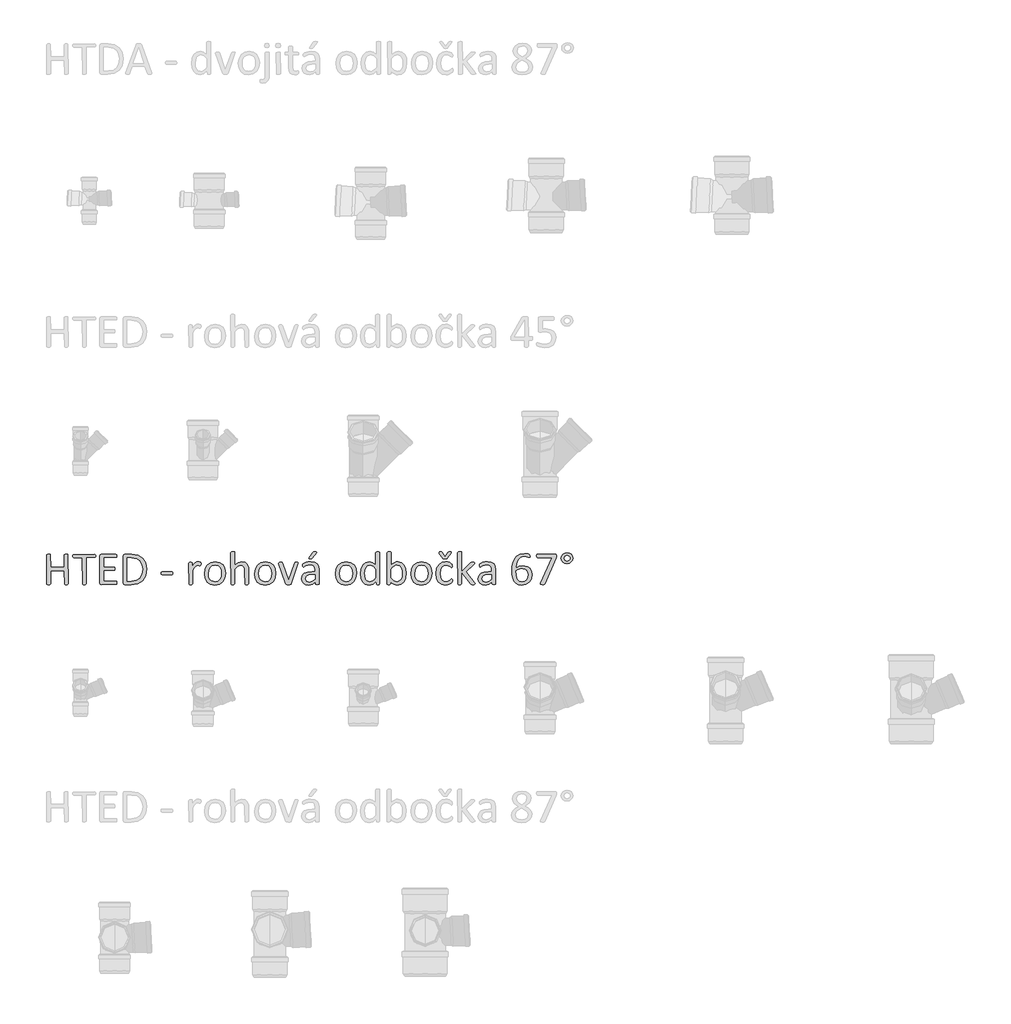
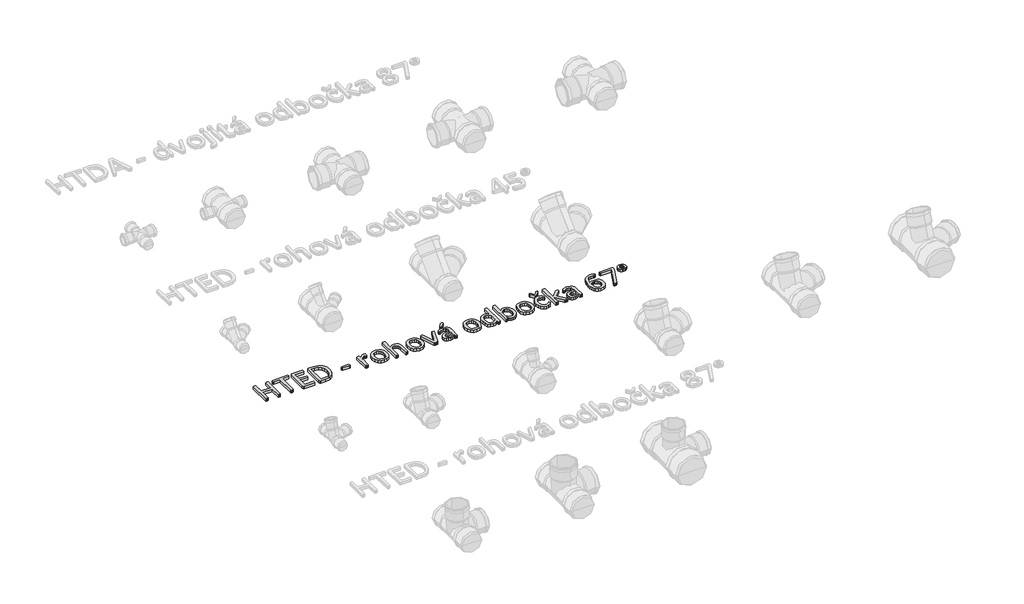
# One storey, part 15 of 26: 1 proxy.
"""IFC4 building model written with IfcOpenShell, lengths in millimetres."""

from ifc_helpers import new_model, si_unit, origin, origin_with_axes, place, context, project, spatial, polyline, outline, extrude, element, save

model = new_model("IFC4")

# Units and contexts
model_context = context("Model", 3, world=origin())
ifc_project = project(units=[si_unit("LENGTHUNIT", "METRE", prefix="MILLI")], contexts=[model_context])

# Site, building, storey
site = spatial("IfcSite", under=ifc_project)
building = spatial("IfcBuilding", under=site)
storey = spatial("IfcBuildingStorey", under=building, Name="Podlaží 1", Elevation=0.0)

# Proxy
placement = place(None, origin())
element("IfcBuildingElementProxy", 1, Name="120mm Arial", ObjectType="120mm Arial", at=placement, inside=storey, context=model_context, shape_type="SweptSolid", body=[
    extrude(outline(polyline([(-20465.0657483, 7988.0506997), (-20469.2817655, 7985.3184311), (-20473.1358927, 7985.0832026), (-20477.1166815, 7985.3184311), (-20479.5775327, 7985.8612659), (-20481.2784151, 8040.6694889), (-20534.5486061, 8040.6694889), (-20534.5486061, 7988.0145107), (-20538.7465288, 7985.3184311), (-20542.6549395, 7985.0832026), (-20546.5271613, 7985.3184311), (-20549.0603905, 7985.8793604), (-20550.7612729, 8102.5526591), (-20546.5271613, 8105.2849277), (-20542.6549395, 8105.5201562), (-20538.7465288, 8105.2849277), (-20536.2494886, 8104.7239984), (-20534.5486061, 8054.5660604), (-20481.2784151, 8054.5660604), (-20481.2784151, 8102.5526591), (-20477.1166815, 8105.2849277), (-20473.1358927, 8105.5201562), (-20469.2817655, 8105.2849277), (-20466.7666308, 8104.7239984), (-20465.0657483, 7988.0506997)])), origin_with_axes(), (0.0, 0.0, 1.0), 15.0),
    extrude(outline(polyline([(-20356.2092711, 8098.4633034), (-20356.390216, 8095.3329559), (-20356.9873343, 8093.1978056), (-20393.2667952, 8091.6235846), (-20393.2667952, 7988.0506997), (-20397.4647179, 7985.3184311), (-20401.3731287, 7985.0832026), (-20405.2453504, 7985.3184311), (-20407.7785796, 7985.8793604), (-20409.4794621, 8091.6235846), (-20443.3885442, 8091.6235846), (-20446.3017578, 8095.3329559), (-20446.5369862, 8098.4633034), (-20446.3017578, 8101.6660289), (-20445.686545, 8103.9097462), (-20359.3939021, 8105.5201562), (-20357.0054288, 8103.9097462), (-20356.390216, 8101.6660289), (-20356.2092711, 8098.4633034)])), origin_with_axes(), (0.0, 0.0, 1.0), 15.0),
    extrude(outline(polyline([(-20272.8298417, 7991.9952994), (-20273.0107867, 7988.9192354), (-20273.6621885, 7986.7298016), (-20274.7478581, 7985.463187), (-20334.0254212, 7985.0832026), (-20338.0785879, 7986.5307622), (-20339.9966043, 7991.5972206), (-20339.9966043, 8099.0061382), (-20338.0604934, 8104.0725966), (-20333.9530432, 8105.5201562), (-20276.0506617, 8105.5201562), (-20273.680283, 8103.8735572), (-20273.0650701, 8101.6841234), (-20272.8298417, 8098.4271144), (-20273.0650701, 8095.3691449), (-20273.680283, 8093.2159001), (-20323.7839374, 8091.6235846), (-20323.7839374, 8054.5660604), (-20282.9627585, 8054.5660604), (-20280.5742852, 8052.865178), (-20279.9590724, 8050.6757442), (-20279.7781275, 8047.3644517), (-20279.9590724, 8044.2702932), (-20280.5742852, 8042.1713319), (-20323.7839374, 8040.6694889), (-20323.7839374, 7998.9797742), (-20276.0868507, 7998.9797742), (-20273.6621885, 7997.3874587), (-20273.0107867, 7995.2342139), (-20272.8298417, 7991.9952994)])), origin_with_axes(), (0.0, 0.0, 1.0), 15.0),
    extrude(outline(polyline([(-20154.7089835, 8047.0749398), (-20158.7078667, 8019.7522536), (-20170.39691, 8000.3911447), (-20189.2513729, 7988.9011409), (-20215.8683739, 7985.0832026), (-20241.3816108, 7985.0832026), (-20245.452872, 7986.5307622), (-20247.3527939, 7991.5972206), (-20247.3527939, 8099.0061382), (-20245.452872, 8104.0725966), (-20241.3816108, 8105.5201562), (-20214.0951135, 8105.5201562), (-20187.6590574, 8101.4669895), (-20169.5464687, 8089.8322297), (-20158.4726383, 8071.4482235), (-20154.7089835, 8047.0749398)]), holes=[polyline([(-20170.9216503, 8046.3511601), (-20173.364407, 8064.3370873), (-20181.0002836, 8078.7403047), (-20194.1730754, 8088.2218197), (-20214.7103263, 8091.6235846), (-20231.140127, 8091.6235846), (-20231.140127, 7998.9797742), (-20214.5293814, 7998.9797742), (-20194.9330441, 8001.8387043), (-20181.6154964, 8010.578345), (-20173.5996354, 8025.3434523), (-20170.9216503, 8046.3511601)])]), origin_with_axes(), (0.0, 0.0, 1.0), 15.0),
    extrude(outline(polyline([(-20050.4846968, 8030.2832492), (-20051.335138, 8025.7234367), (-20053.8140837, 8024.4568221), (-20093.4048371, 8024.4568221), (-20095.9561607, 8025.7596256), (-20096.806602, 8030.2832492), (-20095.9561607, 8034.7706838), (-20093.4048371, 8036.0372984), (-20053.8140837, 8036.0372984), (-20050.7199252, 8032.9974233), (-20050.4846968, 8030.2832492)])), origin_with_axes(), (0.0, 0.0, 1.0), 15.0),
    extrude(outline(polyline([(-19939.3121243, 8066.1465367), (-19939.4025968, 8062.8533388), (-19939.7644866, 8060.7181885), (-19943.3110075, 8059.5058574), (-19945.6451973, 8060.3382041), (-19948.5584108, 8061.1343618), (-19952.0506482, 8061.5143462), (-19956.4657048, 8060.519149), (-19961.0074229, 8057.2621401), (-19965.9834088, 8051.254768), (-19971.7374579, 8042.0808594), (-19971.7374579, 7987.9059437), (-19975.8630026, 7985.2641476), (-19979.8799803, 7985.0832026), (-19983.8245801, 7985.2641476), (-19986.3216203, 7985.8069824), (-19987.9501247, 8070.2720814), (-19984.2226589, 8072.9500666), (-19980.5675711, 8073.0948225), (-19976.9848612, 8072.9500666), (-19974.777333, 8072.4072317), (-19973.2935844, 8058.2573373), (-19967.0328894, 8066.8341275), (-19961.4778797, 8072.0634363), (-19956.3028544, 8074.687138), (-19951.1097345, 8075.4109178), (-19948.4679384, 8075.2842563), (-19945.3556854, 8074.795705), (-19942.4243773, 8073.9814527), (-19940.5787389, 8073.0948225), (-19939.3483133, 8069.4035457), (-19939.3121243, 8066.1465367)])), origin_with_axes(), (0.0, 0.0, 1.0), 15.0),
    extrude(outline(polyline([(-19842.0361234, 8029.9937373), (-19844.7141085, 8011.0126129), (-19852.7299694, 7996.0665606), (-19866.0837062, 7986.2774393), (-19884.6667517, 7982.7671074), (-19902.580301, 7985.8612659), (-19915.3188249, 7994.8542295), (-19922.9185125, 8009.1850689), (-19925.4155527, 8028.2928548), (-19922.7737566, 8047.2739793), (-19914.8121791, 8062.201937), (-19901.5127259, 8071.9367749), (-19882.8934913, 8075.4109178), (-19864.9618475, 8072.3167593), (-19852.2233236, 8063.3237956), (-19844.587447, 8048.9929562), (-19842.0361234, 8029.9937373)]), holes=[polyline([(-19858.2487902, 8028.9080676), (-19859.4973103, 8041.4837411), (-19863.6047605, 8051.8699808), (-19871.3311095, 8058.9268335), (-19883.5087041, 8061.5143462), (-19895.0710859, 8059.1439675), (-19903.0326634, 8052.4490046), (-19907.6829484, 8042.2075209), (-19909.2028859, 8029.2699575), (-19907.9543658, 8016.6219061), (-19903.8107266, 8006.2718554), (-19896.0300941, 7999.2511916), (-19883.870594, 7996.6636789), (-19872.3444012, 7999.0340577), (-19864.3285402, 8005.6747371), (-19859.7144442, 8015.8800318), (-19858.2487902, 8028.9080676)])]), origin_with_axes(), (0.0, 0.0, 1.0), 15.0),
    extrude(outline(polyline([(-19749.392313, 7987.9421327), (-19753.5178576, 7985.2641476), (-19757.4624574, 7985.0832026), (-19761.4794351, 7985.2641476), (-19763.9221918, 7985.8069824), (-19765.6049798, 8036.2906213), (-19766.6725549, 8047.6539636), (-19769.7667135, 8055.0908008), (-19775.0322113, 8059.8677472), (-19782.5052374, 8061.5143462), (-19793.4885954, 8057.479274), (-19804.9785992, 8045.6273803), (-19804.9785992, 7987.9421327), (-19809.1041439, 7985.2641476), (-19813.1211216, 7985.0832026), (-19817.0657213, 7985.2641476), (-19819.5627615, 7985.8250769), (-19821.191266, 8111.8170401), (-19817.0657213, 8114.6035923), (-19813.1211216, 8114.7845372), (-19809.1041439, 8114.6035923), (-19806.6613872, 8114.0426629), (-19805.3766781, 8113.1017492), (-19804.9785992, 8061.7314801), (-19791.9505634, 8072.0453419), (-19778.7415826, 8075.4109178), (-19764.917389, 8072.5881767), (-19755.8520474, 8065.0427726), (-19750.894156, 8053.9870366), (-19749.392313, 8038.6790945), (-19749.392313, 7987.9421327)])), origin_with_axes(), (0.0, 0.0, 1.0), 15.0),
    extrude(outline(polyline([(-19642.851931, 8029.9937373), (-19645.5299161, 8011.0126129), (-19653.5457771, 7996.0665606), (-19666.8995138, 7986.2774393), (-19685.4825594, 7982.7671074), (-19703.3961087, 7985.8612659), (-19716.1346326, 7994.8542295), (-19723.7343202, 8009.1850689), (-19726.2313604, 8028.2928548), (-19723.5895642, 8047.2739793), (-19715.6279867, 8062.201937), (-19702.3285335, 8071.9367749), (-19683.7092989, 8075.4109178), (-19665.7776552, 8072.3167593), (-19653.0391312, 8063.3237956), (-19645.4032547, 8048.9929562), (-19642.851931, 8029.9937373)]), holes=[polyline([(-19659.0645978, 8028.9080676), (-19660.3131179, 8041.4837411), (-19664.4205681, 8051.8699808), (-19672.1469171, 8058.9268335), (-19684.3245118, 8061.5143462), (-19695.8868936, 8059.1439675), (-19703.848471, 8052.4490046), (-19708.498756, 8042.2075209), (-19710.0186935, 8029.2699575), (-19708.7701734, 8016.6219061), (-19704.6265343, 8006.2718554), (-19696.8459018, 7999.2511916), (-19684.6864016, 7996.6636789), (-19673.1602088, 7999.0340577), (-19665.1443479, 8005.6747371), (-19660.5302519, 8015.8800318), (-19659.0645978, 8028.9080676)])]), origin_with_axes(), (0.0, 0.0, 1.0), 15.0),
    extrude(outline(polyline([(-19553.4922713, 8071.502507), (-19581.9820524, 7988.3764006), (-19582.9591551, 7986.7298016), (-19584.7686046, 7985.7346044), (-19587.8265741, 7985.2279586), (-19592.4768591, 7985.0832026), (-19597.0909551, 7985.2641476), (-19600.1127357, 7985.8069824), (-19601.9221851, 7986.8202741), (-19602.9354768, 7988.3764006), (-19631.3076437, 8066.6169936), (-19631.904762, 8068.5169155), (-19628.3039576, 8073.00435), (-19624.7212478, 8073.0948225), (-19620.4147582, 8072.9500666), (-19617.917718, 8072.4434207), (-19615.8187566, 8070.1635145), (-19592.2597252, 8002.2729721), (-19568.3388038, 8070.1635145), (-19566.3665039, 8072.4434207), (-19563.9418417, 8072.9500666), (-19559.9067695, 8073.0948225), (-19556.3783431, 8073.00435), (-19553.4922713, 8071.502507)])), origin_with_axes(), (0.0, 0.0, 1.0), 15.0),
    extrude(outline(polyline([(-19496.9741186, 8111.4913392), (-19495.635126, 8113.0836547), (-19493.7713931, 8114.0607574), (-19491.0391245, 8114.6035923), (-19487.1307138, 8114.7845372), (-19482.7880351, 8114.4769308), (-19480.4719399, 8113.5903006), (-19480.7252628, 8110.6589925), (-19498.0235993, 8089.8503242), (-19499.4168753, 8088.4208591), (-19500.8463404, 8087.5704179), (-19502.9453017, 8087.1180555), (-19506.1661217, 8086.9913941), (-19509.4955086, 8087.2628115), (-19511.2325801, 8087.9865913), (-19510.8345012, 8090.8274268), (-19496.9741186, 8111.4913392)])), origin_with_axes(), (0.0, 0.0, 1.0), 15.0),
    extrude(outline(polyline([(-19471.4608818, 7987.8697547), (-19472.2570395, 7986.1869668), (-19474.4283788, 7985.35462), (-19478.4815455, 7985.0832026), (-19482.5889957, 7985.35462), (-19484.8146185, 7986.1869668), (-19485.5022093, 7987.8697547), (-19485.5022093, 7996.1932221), (-19497.6978984, 7986.5669512), (-19511.9563598, 7982.7671074), (-19523.9168205, 7984.4860843), (-19533.0183511, 7989.4620702), (-19538.8628727, 7997.4598367), (-19540.9437396, 8008.2441552), (-19538.066715, 8020.5122223), (-19529.8156256, 8029.1613906), (-19516.6609283, 8034.3183214), (-19499.1454579, 8036.0372984), (-19487.6735486, 8036.0372984), (-19487.6735486, 8042.9493951), (-19488.6868403, 8051.9966423), (-19491.9438492, 8058.5468492), (-19497.7521819, 8062.4914489), (-19506.5280116, 8063.8304415), (-19516.5704558, 8062.3828819), (-19524.3510884, 8059.198251), (-19529.9422871, 8056.01362), (-19533.271674, 8054.5660604), (-19536.1306041, 8058.0944868), (-19536.311549, 8060.7543775), (-19535.9858481, 8064.5542212), (-19534.3935327, 8067.2141119), (-19530.050854, 8069.928286), (-19522.9578123, 8072.6062712), (-19514.1819826, 8074.61476), (-19504.5738062, 8075.4109178), (-19489.1934861, 8073.3662399), (-19478.9339079, 8067.3950568), (-19473.2341422, 8057.6421245), (-19471.4608818, 8044.0350648), (-19471.4608818, 7987.8697547)]), holes=[polyline([(-19487.6735486, 8024.4568221), (-19500.5568285, 8024.4568221), (-19511.304958, 8023.3892469), (-19518.8865511, 8020.2408049), (-19523.3197022, 8015.2467245), (-19524.7310727, 8008.5336671), (-19520.677906, 7998.1836164), (-19509.3145637, 7994.3475837), (-19498.3131112, 7997.4055532), (-19487.6735486, 8006.7604067), (-19487.6735486, 8024.4568221)])]), origin_with_axes(), (0.0, 0.0, 1.0), 15.0),
    extrude(outline(polyline([(-19323.2307851, 8029.9937373), (-19325.9087703, 8011.0126129), (-19333.9246312, 7996.0665606), (-19347.2783679, 7986.2774393), (-19365.8614135, 7982.7671074), (-19383.7749628, 7985.8612659), (-19396.5134867, 7994.8542295), (-19404.1131743, 8009.1850689), (-19406.6102145, 8028.2928548), (-19403.9684183, 8047.2739793), (-19396.0068409, 8062.201937), (-19382.7073876, 8071.9367749), (-19364.0881531, 8075.4109178), (-19346.1565093, 8072.3167593), (-19333.4179854, 8063.3237956), (-19325.7821088, 8048.9929562), (-19323.2307851, 8029.9937373)]), holes=[polyline([(-19339.4434519, 8028.9080676), (-19340.691972, 8041.4837411), (-19344.7994222, 8051.8699808), (-19352.5257713, 8058.9268335), (-19364.7033659, 8061.5143462), (-19376.2657477, 8059.1439675), (-19384.2273251, 8052.4490046), (-19388.8776101, 8042.2075209), (-19390.3975477, 8029.2699575), (-19389.1490276, 8016.6219061), (-19385.0053884, 8006.2718554), (-19377.2247559, 7999.2511916), (-19365.0652558, 7996.6636789), (-19353.5390629, 7999.0340577), (-19345.523202, 8005.6747371), (-19340.909106, 8015.8800318), (-19339.4434519, 8028.9080676)])]), origin_with_axes(), (0.0, 0.0, 1.0), 15.0),
    extrude(outline(polyline([(-19230.9126756, 7987.9783217), (-19234.296346, 7985.2641476), (-19237.6076385, 7985.0832026), (-19241.0455924, 7985.2641476), (-19243.2893097, 7985.7346044), (-19244.9540031, 7998.0388605), (-19258.3982123, 7986.8021796), (-19273.651871, 7982.7671074), (-19289.06838, 7986.3679117), (-19299.4003362, 7996.1027496), (-19305.1905744, 8010.542156), (-19307.0181183, 8028.0033429), (-19304.738212, 8047.6358691), (-19298.0070602, 8062.5819214), (-19286.9694187, 8072.0815308), (-19271.7338546, 8075.4109178), (-19258.5791573, 8072.1720033), (-19246.7996415, 8062.6723938), (-19246.7996415, 8111.7808512), (-19245.1349481, 8113.9883794), (-19242.6379079, 8114.5493088), (-19238.8018751, 8114.7845372), (-19234.7848974, 8114.5493088), (-19232.3421407, 8113.9883794), (-19231.0212426, 8113.0655602), (-19230.9126756, 7987.9783217)]), holes=[polyline([(-19246.7996415, 8046.1702151), (-19258.4163068, 8057.587841), (-19270.1053501, 8061.5143462), (-19279.695432, 8058.7639831), (-19286.100883, 8051.5080909), (-19289.6835928, 8041.3027962), (-19290.8054515, 8029.7404144), (-19289.8645378, 8017.5085363), (-19286.5894343, 8006.9051627), (-19280.4011173, 7999.4683255), (-19270.7205629, 7996.6636789), (-19265.0388917, 7997.4779312), (-19259.4295985, 8000.1740108), (-19253.4403209, 8005.0595243), (-19246.7996415, 8012.4782669), (-19246.7996415, 8046.1702151)])]), origin_with_axes(), (0.0, 0.0, 1.0), 15.0),
    extrude(outline(polyline([(-19126.362688, 8030.1746822), (-19128.6787833, 8010.4516835), (-19135.5004076, 7995.5056313), (-19146.5742381, 7986.0422108), (-19161.6107628, 7982.7671074), (-19168.8485604, 7983.5632651), (-19175.3625784, 7986.1507778), (-19181.7318403, 7990.6563069), (-19188.4629922, 7997.2065138), (-19188.4629922, 7987.7611878), (-19192.3533084, 7985.2641476), (-19195.7369789, 7985.0832026), (-19199.0663658, 7985.2641476), (-19201.3281776, 7985.7707934), (-19202.7938316, 8111.8170401), (-19198.6682869, 8114.6035923), (-19194.7236872, 8114.7845372), (-19190.7067095, 8114.6035923), (-19188.2639527, 8114.0426629), (-19186.9792437, 8113.1017492), (-19186.5811648, 8061.5505352), (-19179.5424065, 8068.0102696), (-19172.8655382, 8072.2805703), (-19166.3334257, 8074.6690435), (-19159.4394235, 8075.4109178), (-19144.2219538, 8071.7558299), (-19133.9442811, 8061.9667086), (-19128.1721374, 8047.5815857), (-19126.362688, 8030.1746822)]), holes=[polyline([(-19142.5753548, 8028.4014218), (-19143.5162685, 8040.7237724), (-19146.8094665, 8051.3090515), (-19153.015878, 8058.7096996), (-19162.6602434, 8061.5143462), (-19168.3057256, 8060.700094), (-19173.9693023, 8057.9859198), (-19179.9585799, 8053.1185009), (-19186.5811648, 8045.6273803), (-19186.5811648, 8012.00781), (-19174.8921215, 8000.5901842), (-19163.2754562, 7996.6636789), (-19153.7396578, 7999.4321366), (-19147.2980178, 8006.7423122), (-19143.6972135, 8016.947607), (-19142.5753548, 8028.4014218)])]), origin_with_axes(), (0.0, 0.0, 1.0), 15.0),
    extrude(outline(polyline([(-19024.4544966, 8029.9937373), (-19027.1324817, 8011.0126129), (-19035.1483427, 7996.0665606), (-19048.5020794, 7986.2774393), (-19067.085125, 7982.7671074), (-19084.9986742, 7985.8612659), (-19097.7371982, 7994.8542295), (-19105.3368857, 8009.1850689), (-19107.8339259, 8028.2928548), (-19105.1921298, 8047.2739793), (-19097.2305523, 8062.201937), (-19083.9310991, 8071.9367749), (-19065.3118645, 8075.4109178), (-19047.3802208, 8072.3167593), (-19034.6416968, 8063.3237956), (-19027.0058203, 8048.9929562), (-19024.4544966, 8029.9937373)]), holes=[polyline([(-19040.6671634, 8028.9080676), (-19041.9156835, 8041.4837411), (-19046.0231337, 8051.8699808), (-19053.7494827, 8058.9268335), (-19065.9270773, 8061.5143462), (-19077.4894591, 8059.1439675), (-19085.4510366, 8052.4490046), (-19090.1013216, 8042.2075209), (-19091.6212591, 8029.2699575), (-19090.372739, 8016.6219061), (-19086.2290998, 8006.2718554), (-19078.4484673, 7999.2511916), (-19066.2889672, 7996.6636789), (-19054.7627744, 7999.0340577), (-19046.7469135, 8005.6747371), (-19042.1328174, 8015.8800318), (-19040.6671634, 8028.9080676)])]), origin_with_axes(), (0.0, 0.0, 1.0), 15.0),
    extrude(outline(polyline([(-18943.3911625, 8001.7301373), (-18943.4816349, 7999.1969081), (-18943.8073358, 7997.3874587), (-18945.7977302, 7993.7504654), (-18949.6880465, 7990.222039), (-18955.858269, 7986.4764787), (-18963.2951061, 7983.7984935), (-18971.6185735, 7982.7671074), (-18987.3245944, 7985.7707934), (-18998.7784093, 7994.5466231), (-19005.8171675, 8008.6965176), (-19008.2418298, 8028.0395319), (-19005.2743327, 8049.4815076), (-18997.1499048, 8064.1561424), (-18985.0084992, 8072.6424602), (-18969.881502, 8075.4109178), (-18962.2456255, 8074.5966655), (-18955.4420956, 8072.4615152), (-18949.9051804, 8069.4216402), (-18946.3948485, 8066.4722376), (-18944.8930055, 8064.5361267), (-18944.2054147, 8062.9980947), (-18943.8435248, 8061.0981728), (-18943.7530524, 8058.4382822), (-18944.5673046, 8053.6251467), (-18946.5396045, 8052.2499652), (-18949.669952, 8053.6975247), (-18954.139292, 8056.8821557), (-18960.7075934, 8060.0667867), (-18969.772935, 8061.5143462), (-18979.2951626, 8059.4153849), (-18986.2932083, 8053.1185009), (-18990.5951743, 8042.8227337), (-18992.0291629, 8028.7271227), (-18990.5454144, 8014.7219842), (-18986.1665468, 8004.6614454), (-18979.0554106, 7998.6359788), (-18969.4110452, 7996.6636789), (-18960.3818926, 7998.4912229), (-18953.6507407, 8002.5082006), (-18948.8556997, 8006.4708948), (-18945.8158247, 8008.2441552), (-18943.5178239, 8004.6795399), (-18943.3911625, 8001.7301373)])), origin_with_axes(), (0.0, 0.0, 1.0), 15.0),
    extrude(outline(polyline([(-18960.7618769, 8112.1065521), (-18959.6038293, 8113.3912611), (-18956.3106314, 8114.6578757), (-18953.4155123, 8114.7845372), (-18949.633763, 8114.4769308), (-18947.8243136, 8113.5903006), (-18949.1814006, 8109.7904568), (-18964.1274529, 8089.3074893), (-18965.303595, 8088.1494417), (-18966.8959105, 8087.4799454), (-18969.2120057, 8087.1180555), (-18972.5594872, 8086.9913941), (-18975.7079292, 8087.1180555), (-18977.9335519, 8087.5161344), (-18979.471584, 8088.2399142), (-18995.5033058, 8109.7904568), (-18996.8965819, 8112.0160796), (-18994.99666, 8114.4769308), (-18991.2330052, 8114.7845372), (-18988.1207522, 8114.6578757), (-18986.2389248, 8114.2055134), (-18983.9228295, 8112.1065521), (-18972.3423532, 8095.9300742), (-18960.7618769, 8112.1065521)])), origin_with_axes(), (0.0, 0.0, 1.0), 15.0),
    extrude(outline(polyline([(-18853.0634473, 7988.0145107), (-18857.1347085, 7985.2641476), (-18861.1335918, 7985.0832026), (-18865.2591364, 7985.2279586), (-18868.0094996, 7985.6803209), (-18869.818949, 7986.5850457), (-18871.0855636, 7988.0145107), (-18906.3336383, 8033.5764471), (-18906.3336383, 7987.9059437), (-18910.459183, 7985.2641476), (-18914.4761607, 7985.0832026), (-18918.4207605, 7985.2641476), (-18920.9178007, 7985.8250769), (-18922.5463051, 8111.8170401), (-18918.4207605, 8114.6035923), (-18914.4761607, 8114.7845372), (-18910.459183, 8114.6035923), (-18908.0164263, 8114.0426629), (-18906.7317172, 8113.1017492), (-18906.3336383, 8035.6754085), (-18874.1254386, 8069.9101915), (-18872.5150286, 8071.4120346), (-18870.4884453, 8072.4072317), (-18867.7018932, 8072.9500666), (-18863.8115769, 8073.0948225), (-18859.8307882, 8072.9500666), (-18857.2432755, 8072.4977042), (-18855.8138105, 8071.683452), (-18856.0128499, 8068.1550256), (-18858.1299057, 8065.6037019), (-18890.1209715, 8035.7839754), (-18855.3433536, 7992.3210003), (-18853.5881877, 7989.8058656), (-18853.0634473, 7988.0145107)])), origin_with_axes(), (0.0, 0.0, 1.0), 15.0),
    extrude(outline(polyline([(-18772.0001132, 7987.8697547), (-18772.796271, 7986.1869668), (-18774.9676103, 7985.35462), (-18779.020777, 7985.0832026), (-18783.1282272, 7985.35462), (-18785.35385, 7986.1869668), (-18786.0414408, 7987.8697547), (-18786.0414408, 7996.1932221), (-18798.2371299, 7986.5669512), (-18812.4955913, 7982.7671074), (-18824.456052, 7984.4860843), (-18833.5575826, 7989.4620702), (-18839.4021042, 7997.4598367), (-18841.482971, 8008.2441552), (-18838.6059465, 8020.5122223), (-18830.3548571, 8029.1613906), (-18817.2001598, 8034.3183214), (-18799.6846894, 8036.0372984), (-18788.2127801, 8036.0372984), (-18788.2127801, 8042.9493951), (-18789.2260717, 8051.9966423), (-18792.4830807, 8058.5468492), (-18798.2914133, 8062.4914489), (-18807.067243, 8063.8304415), (-18817.1096873, 8062.3828819), (-18824.8903198, 8059.198251), (-18830.4815186, 8056.01362), (-18833.8109055, 8054.5660604), (-18836.6698356, 8058.0944868), (-18836.8507805, 8060.7543775), (-18836.5250796, 8064.5542212), (-18834.9327641, 8067.2141119), (-18830.5900855, 8069.928286), (-18823.4970438, 8072.6062712), (-18814.7212141, 8074.61476), (-18805.1130377, 8075.4109178), (-18789.7327176, 8073.3662399), (-18779.4731394, 8067.3950568), (-18773.7733737, 8057.6421245), (-18772.0001132, 8044.0350648), (-18772.0001132, 7987.8697547)]), holes=[polyline([(-18788.2127801, 8024.4568221), (-18801.0960599, 8024.4568221), (-18811.8441895, 8023.3892469), (-18819.4257826, 8020.2408049), (-18823.8589337, 8015.2467245), (-18825.2703042, 8008.5336671), (-18821.2171375, 7998.1836164), (-18809.8537951, 7994.3475837), (-18798.8523427, 7997.4055532), (-18788.2127801, 8006.7604067), (-18788.2127801, 8024.4568221)])]), origin_with_axes(), (0.0, 0.0, 1.0), 15.0),
    extrude(outline(polyline([(-18628.4022071, 8023.9501762), (-18630.8087748, 8008.4793837), (-18638.2275175, 7995.3246864), (-18650.9298524, 7986.2050613), (-18669.0786301, 7982.7671074), (-18682.3237999, 7984.6489348), (-18692.3300552, 7990.0049051), (-18699.4050024, 7998.5455063), (-18703.9467205, 8010.1078881), (-18706.4075717, 8024.3120661), (-18707.149446, 8040.8504338), (-18706.3351937, 8056.6288328), (-18703.4038857, 8072.0453419), (-18697.6860255, 8085.9961969), (-18688.6568729, 8097.3595393), (-18675.6469315, 8105.0135103), (-18658.0047997, 8107.8362514), (-18651.1650808, 8107.456267), (-18644.7596299, 8106.4429754), (-18639.819833, 8105.0496993), (-18637.1780368, 8103.8192737), (-18635.3504929, 8098.2099805), (-18635.4047764, 8095.4958064), (-18635.7666663, 8093.5596955), (-18640.6159907, 8092.7454432), (-18644.7958189, 8094.1749083), (-18650.7489075, 8095.6043733), (-18658.8733354, 8096.2557751), (-18673.4213087, 8092.5644983), (-18683.3732806, 8082.6487155), (-18689.0911407, 8068.2093091), (-18691.226291, 8051.3814295), (-18685.8160373, 8054.1860761), (-18679.2296414, 8056.6831163), (-18671.7023318, 8058.4925657), (-18663.179825, 8059.198251), (-18646.8224022, 8056.5202658), (-18636.0380837, 8049.1015232), (-18630.1573731, 8037.9191258), (-18628.4022071, 8023.9501762)]), holes=[polyline([(-18644.6148739, 8023.4797194), (-18645.6824491, 8033.4497857), (-18649.22897, 8041.0856622), (-18655.8696493, 8045.9168922), (-18666.1111331, 8047.6177747), (-18672.9327574, 8047.0025619), (-18679.5372478, 8045.3016794), (-18685.6350923, 8042.7503557), (-18690.9367791, 8039.5838192), (-18689.4168416, 8019.1189463), (-18684.9836905, 8005.9099655), (-18677.7458929, 7998.7988293), (-18667.5948816, 7996.6636789), (-18657.3533979, 7998.9435852), (-18650.1517892, 8005.0595243), (-18645.9538665, 8013.6725035), (-18644.6148739, 8023.4797194)])]), origin_with_axes(), (0.0, 0.0, 1.0), 15.0),
    extrude(outline(polyline([(-18531.1262062, 8098.7166263), (-18531.2709622, 8095.7129403), (-18531.6509465, 8093.1254276), (-18532.3023483, 8090.7369544), (-18533.2613565, 8088.2941977), (-18576.7605206, 7988.7021015), (-18577.9185682, 7986.8926521), (-18579.6918287, 7985.7888879), (-18582.4421918, 7985.2279586), (-18586.5315475, 7985.0832026), (-18591.4894389, 7985.35462), (-18594.0588571, 7986.2412503), (-18594.7645424, 7987.7249988), (-18594.0950461, 7989.8239601), (-18548.3883537, 8091.6235846), (-18606.3269242, 8091.6235846), (-18608.9868148, 8093.469223), (-18609.873445, 8098.6080594), (-18609.6382166, 8101.6660289), (-18608.9325313, 8103.8192737), (-18607.8106727, 8105.1039828), (-18535.9755306, 8105.5201562), (-18533.6956244, 8105.2487387), (-18532.1937814, 8104.1449746), (-18531.3976236, 8102.0279188), (-18531.1262062, 8098.7166263)])), origin_with_axes(), (0.0, 0.0, 1.0), 15.0),
    extrude(outline(polyline([(-18466.2755389, 8089.6693792), (-18468.0307049, 8081.4001954), (-18472.9705018, 8074.61476), (-18480.4616224, 8070.073042), (-18489.7983814, 8068.462632), (-18498.9903845, 8069.9463805), (-18506.1558042, 8074.1262087), (-18510.8965617, 8080.5859431), (-18512.5974441, 8088.9455995), (-18510.7879947, 8097.4500117), (-18505.8120088, 8104.1449746), (-18498.3751717, 8108.5419367), (-18489.0746016, 8110.1523467), (-18479.9368821, 8108.6324092), (-18472.7171789, 8104.452581), (-18467.9764214, 8098.0290355), (-18466.2755389, 8089.6693792)]), holes=[polyline([(-18477.8560152, 8089.3436783), (-18478.7245509, 8093.9396799), (-18481.1492132, 8097.6128622), (-18484.8585845, 8100.0194299), (-18489.5450585, 8100.8879656), (-18494.068682, 8100.0194299), (-18497.7237699, 8097.6128622), (-18500.1484321, 8093.9939633), (-18501.0169678, 8089.5246233), (-18500.1484321, 8084.7114878), (-18497.6694864, 8081.0021165), (-18493.8696426, 8078.5955488), (-18489.1469796, 8077.727013), (-18484.7138285, 8078.6317377), (-18481.1130242, 8081.1287779), (-18478.7245509, 8084.8019603), (-18477.8560152, 8089.3436783)])]), origin_with_axes(), (0.0, 0.0, 1.0), 15.0),
])

save(model, "model.ifc")
